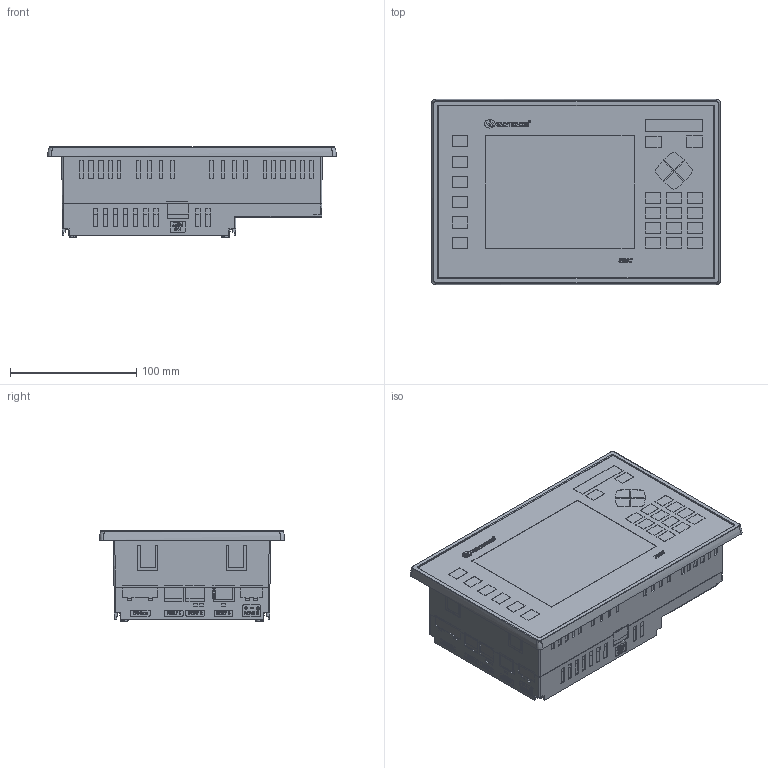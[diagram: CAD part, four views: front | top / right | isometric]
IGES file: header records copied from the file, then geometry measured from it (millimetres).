
Start section: SolidWorks IGES file using analytic representation for surfaces
Global section: file name: Z:\Products\V560_280G_290G\CAD Files\3D\IGES\V560-T25B.IGS; native system: SolidWorks 2011; preprocessor: SolidWorks 2011; author: baraki; date: 120624.094109; units: millimetre
Bounding box: 228.35 x 146.46 x 71.8 mm (x, y, z)
Surface area: 139054 mm2 (no closed solid volume)
Topology: 0 solids, 0 shells, 2941 faces, 22677 edges, 22663 vertices
Faces by surface type: bspline 2531, revolution 410
